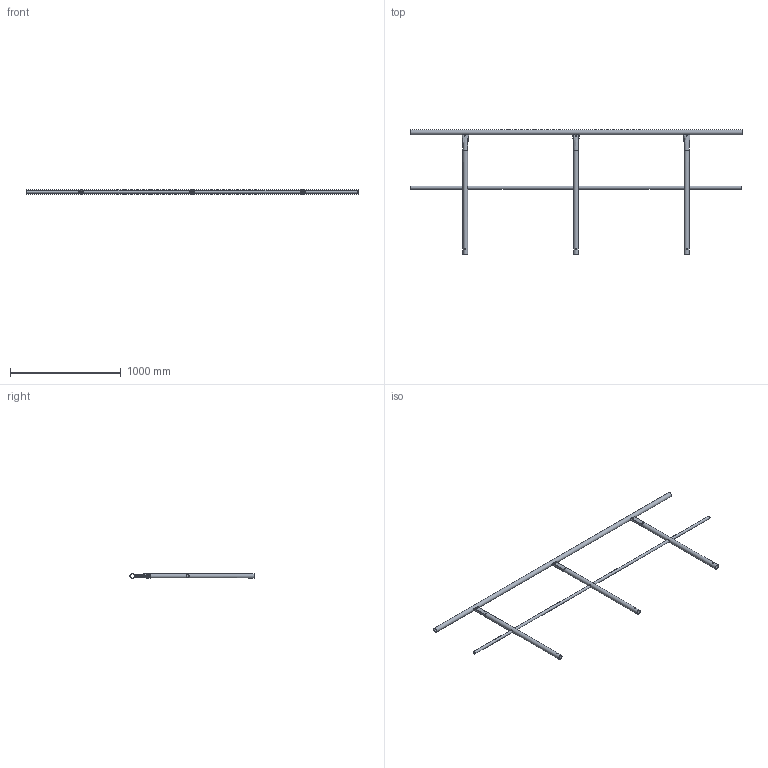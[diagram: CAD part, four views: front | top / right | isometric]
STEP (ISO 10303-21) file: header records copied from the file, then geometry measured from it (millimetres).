
FILE_DESCRIPTION((''),'2;1');
FILE_NAME('S:\Användarkataloger\AndreasA\Mina Inventor filer\Räcken\STEP\stormodul_ind_3000-1100.stp','2010-09-07T13:39:16',('AndreasA'),(''),'Autodesk Inventor 2011','Autodesk Inventor 2011','');
FILE_SCHEMA(('AUTOMOTIVE_DESIGN { 1 0 10303 214 1 1 1 1 }'));
Length unit declared in the file: millimetre
Products named in the file (5): stormodul_ind_3000-1100; handledare_stormodul_3000; stolpe_stormodul_1100; mellanliggare_stormodul_958; mellanliggare_stormodul_479
Assembly tree (8 placements, depth 2):
  stormodul_ind_3000-1100
    handledare_stormodul_3000
    stolpe_stormodul_1100  x3
    mellanliggare_stormodul_958  x2
    mellanliggare_stormodul_479  x2
Bounding box: 3000 x 1121.2 x 42.4 mm (x, y, z)
Volume: 1996562.5 mm3; surface area: 2000805.6 mm2
Topology: 8 solids, 8 shells, 68 faces, 186 edges, 134 vertices
Faces by surface type: cylinder 28, bspline 24, plane 16
Full cylindrical faces by diameter (mm): 10 x12, 21 x4, 25 x4, 38.4 x4, 42.4 x4
Entity records: 1812 total; most frequent: CARTESIAN_POINT 1025, DIRECTION 136, ORIENTED_EDGE 112, AXIS2_PLACEMENT_3D 67, EDGE_CURVE 56, EDGE_LOOP 56, VERTEX_POINT 48, CIRCLE 34
